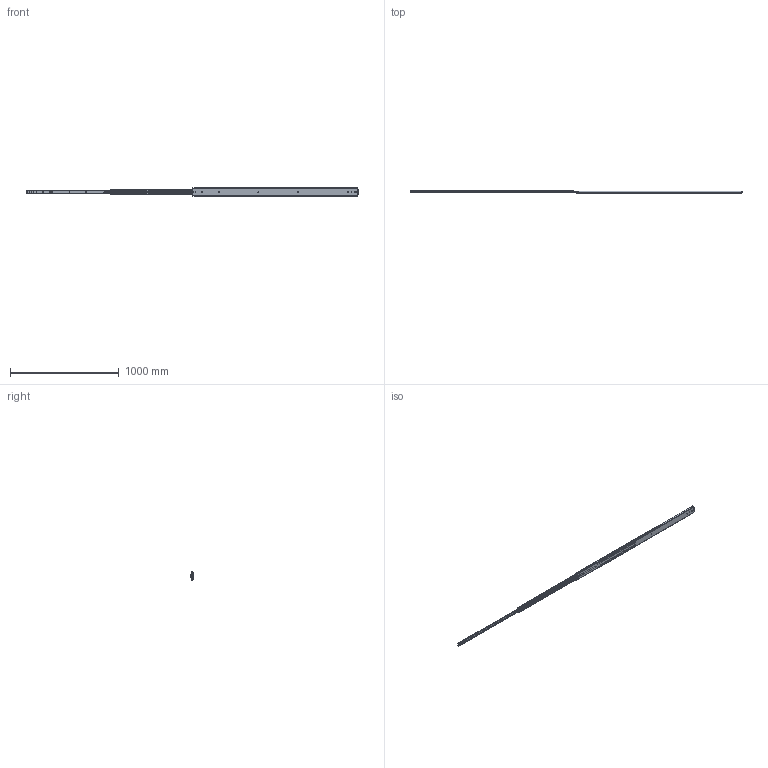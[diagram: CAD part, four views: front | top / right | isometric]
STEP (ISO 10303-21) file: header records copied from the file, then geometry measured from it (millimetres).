
FILE_DESCRIPTION((''),'2;1');
FILE_NAME('DG-76-02-60_ASM','2023-05-15T',('jishu015'),(''),'PRO/ENGINEER BY PARAMETRIC TECHNOLOGY CORPORATION, 2010280','PRO/ENGINEER BY PARAMETRIC TECHNOLOGY CORPORATION, 2010280','');
FILE_SCHEMA(('CONFIG_CONTROL_DESIGN'));
Products named in the file (18): KP-76-04WAIKE3__; 1076-WAIKEZIDANJIAO3__; WAIK72___ASM; 1076XIAOZHUTIAO1__; 163__; 1076XIAOZHUTIAO1___ASM; KP-76-04ZHONGGUI3__; 76CHANGGUIZHONGGUIJIAO3__; 3X6WODIN3__; PJ-76-33__; 76-XIAOZHUJIA3__; GANGZHU-XIAO3__; ZHUJIA-XIAO3___ASM; ZHONGGUI3___ASM; KP-76-04NEIGUI3__; XIN-TANPIAN__; NEIGUI3___ASM; DG-76-02-60_ASM
Assembly tree (104 placements, depth 4):
  DG-76-02-60_ASM
    WAIK72___ASM
      KP-76-04WAIKE3__
      1076-WAIKEZIDANJIAO3__  x2
    1076XIAOZHUTIAO1___ASM  x2
      1076XIAOZHUTIAO1__
      163__
    ZHONGGUI3___ASM
      KP-76-04ZHONGGUI3__
      76CHANGGUIZHONGGUIJIAO3__
      3X6WODIN3__
      PJ-76-33__
      ZHUJIA-XIAO3___ASM
        76-XIAOZHUJIA3__
        GANGZHU-XIAO3__  x58
    NEIGUI3___ASM
      KP-76-04NEIGUI3__
      XIN-TANPIAN__
Bounding box: 3048 x 19.5 x 75.3 mm (x, y, z)
Volume: 1000054.3 mm3; surface area: 959515.1 mm2
Topology: 128 solids, 128 shells, 2568 faces, 8134 edges, 5099 vertices
Faces by surface type: plane 1391, cylinder 834, sphere 234, extrusion 87, cone 18, bspline 4
Entity records: 76279 total; most frequent: CARTESIAN_POINT 18217, ORIENTED_EDGE 12996, DIRECTION 11171, EDGE_CURVE 6498, VERTEX_POINT 4243, AXIS2_PLACEMENT_3D 3777, VECTOR 3617, LINE 3530
